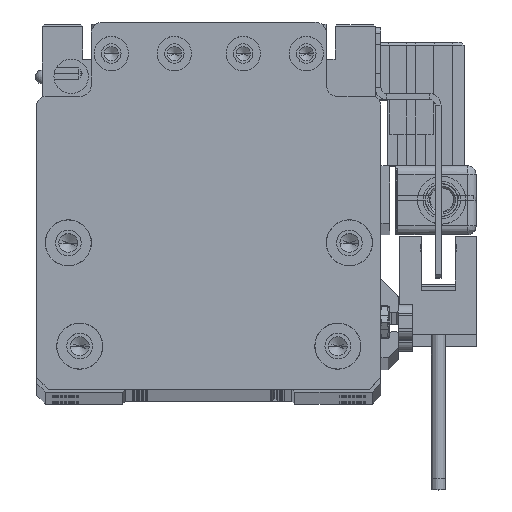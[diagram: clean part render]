
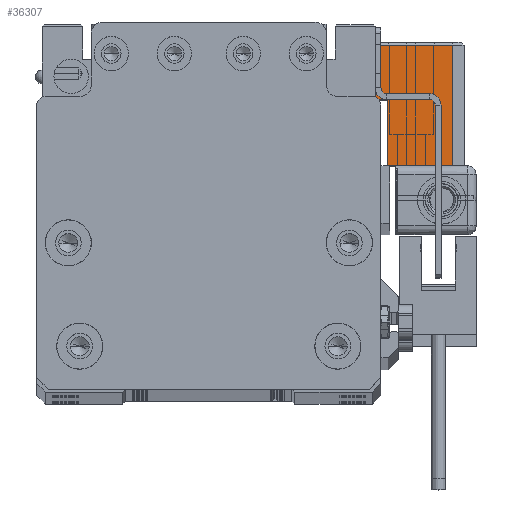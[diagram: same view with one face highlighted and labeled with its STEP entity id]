
A CAD part, top view. The second image highlights one B-rep face of the part: STEP entity #36307.
In plain terms, the highlighted planar face has unit normal (0, 0, 1) as drawn and (-1, 0, 0) by its records, which use the part's own axes.
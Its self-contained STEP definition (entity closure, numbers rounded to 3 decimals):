
#664 = DIRECTION ( 'NONE',  ( 0., -1., 0. ) ) ;
#1122 = EDGE_CURVE ( 'NONE', #51171, #40533, #39168, .T. ) ;
#3083 = LINE ( 'NONE', #27738, #31193 ) ;
#4293 = CARTESIAN_POINT ( 'NONE',  ( -17., -10.75, -2. ) ) ;
#5417 = EDGE_CURVE ( 'NONE', #40533, #13719, #3083, .T. ) ;
#6790 = LINE ( 'NONE', #59011, #55256 ) ;
#8649 = EDGE_CURVE ( 'NONE', #13719, #48539, #14308, .T. ) ;
#10276 = CARTESIAN_POINT ( 'NONE',  ( -17., -10.75, -15.5 ) ) ;
#10549 = VECTOR ( 'NONE', #25688, 1000. ) ;
#10608 = DIRECTION ( 'NONE',  ( 0., 0., 1. ) ) ;
#11387 = ORIENTED_EDGE ( 'NONE', *, *, #20558, .T. ) ;
#13719 = VERTEX_POINT ( 'NONE', #57431 ) ;
#14308 = LINE ( 'NONE', #34221, #18899 ) ;
#14997 = ORIENTED_EDGE ( 'NONE', *, *, #5417, .T. ) ;
#15016 = FACE_OUTER_BOUND ( 'NONE', #51270, .T. ) ;
#15409 = CARTESIAN_POINT ( 'NONE',  ( -17., 10.25, -2. ) ) ;
#18899 = VECTOR ( 'NONE', #664, 1000. ) ;
#20558 = EDGE_CURVE ( 'NONE', #48539, #57060, #6790, .T. ) ;
#21739 = ORIENTED_EDGE ( 'NONE', *, *, #53733, .T. ) ;
#21938 = EDGE_CURVE ( 'NONE', #57060, #40420, #60383, .T. ) ;
#25124 = DIRECTION ( 'NONE',  ( 0., 0., 1. ) ) ;
#25275 = CARTESIAN_POINT ( 'NONE',  ( -17., 10.25, -15.5 ) ) ;
#25688 = DIRECTION ( 'NONE',  ( 0., 0., -1. ) ) ;
#26320 = LINE ( 'NONE', #35837, #10549 ) ;
#26767 = CARTESIAN_POINT ( 'NONE',  ( -17., -10.75, -13.3 ) ) ;
#26802 = CARTESIAN_POINT ( 'NONE',  ( -17., 10.75, -2. ) ) ;
#27738 = CARTESIAN_POINT ( 'NONE',  ( -17., 0.75, -15.5 ) ) ;
#29544 = DIRECTION ( 'NONE',  ( -1., 0., 0. ) ) ;
#30929 = DIRECTION ( 'NONE',  ( 0., 1., 0. ) ) ;
#31193 = VECTOR ( 'NONE', #51474, 1000. ) ;
#33695 = PLANE ( 'NONE',  #39212 ) ;
#34221 = CARTESIAN_POINT ( 'NONE',  ( -17., -10.75, -13.3 ) ) ;
#35837 = CARTESIAN_POINT ( 'NONE',  ( -17., 10.25, -15.5 ) ) ;
#36263 = VECTOR ( 'NONE', #53700, 1000. ) ;
#36307 = ADVANCED_FACE ( 'NONE', ( #15016 ), #33695, .T. ) ;
#39168 = LINE ( 'NONE', #58464, #36263 ) ;
#39212 = AXIS2_PLACEMENT_3D ( 'NONE', #10276, #29544, #25124 ) ;
#40420 = VERTEX_POINT ( 'NONE', #15409 ) ;
#40533 = VERTEX_POINT ( 'NONE', #51453 ) ;
#41431 = ORIENTED_EDGE ( 'NONE', *, *, #21938, .T. ) ;
#41861 = ORIENTED_EDGE ( 'NONE', *, *, #1122, .T. ) ;
#48539 = VERTEX_POINT ( 'NONE', #26767 ) ;
#51171 = VERTEX_POINT ( 'NONE', #25275 ) ;
#51270 = EDGE_LOOP ( 'NONE', ( #41431, #21739, #41861, #14997, #59445, #11387 ) ) ;
#51453 = CARTESIAN_POINT ( 'NONE',  ( -17., 0.75, -15.5 ) ) ;
#51474 = DIRECTION ( 'NONE',  ( 0., 0., 1. ) ) ;
#53700 = DIRECTION ( 'NONE',  ( 0., -1., 0. ) ) ;
#53733 = EDGE_CURVE ( 'NONE', #40420, #51171, #26320, .T. ) ;
#55256 = VECTOR ( 'NONE', #10608, 1000. ) ;
#57060 = VERTEX_POINT ( 'NONE', #4293 ) ;
#57391 = VECTOR ( 'NONE', #30929, 1000. ) ;
#57431 = CARTESIAN_POINT ( 'NONE',  ( -17., 0.75, -13.3 ) ) ;
#58464 = CARTESIAN_POINT ( 'NONE',  ( -17., -10.75, -15.5 ) ) ;
#59011 = CARTESIAN_POINT ( 'NONE',  ( -17., -10.75, -15.5 ) ) ;
#59445 = ORIENTED_EDGE ( 'NONE', *, *, #8649, .T. ) ;
#60383 = LINE ( 'NONE', #26802, #57391 ) ;
